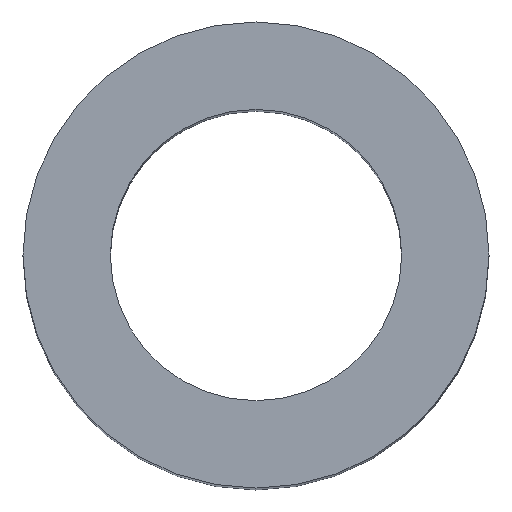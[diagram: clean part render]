
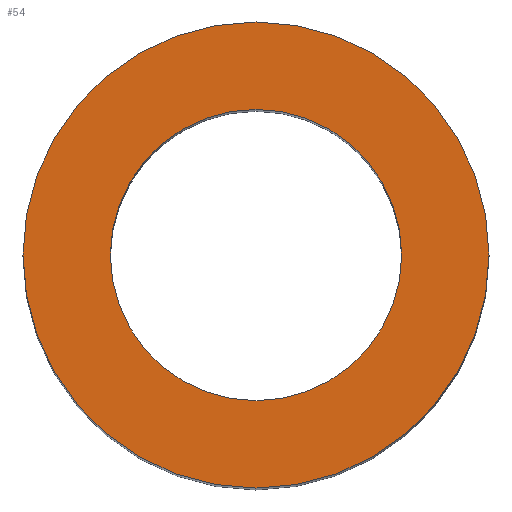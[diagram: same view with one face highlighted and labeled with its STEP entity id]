
A CAD part, top view. The second image highlights one B-rep face of the part: STEP entity #54.
In plain terms, the highlighted planar face has unit normal (0, 0, 1).
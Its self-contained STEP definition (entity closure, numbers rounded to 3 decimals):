
#1 = DIRECTION ( 'NONE',  ( 0., 0., 1. ) ) ;
#4 = CIRCLE ( 'NONE', #205, 8. ) ;
#6 = DIRECTION ( 'NONE',  ( 1., 0., 0. ) ) ;
#12 = DIRECTION ( 'NONE',  ( 0., 0., 1. ) ) ;
#14 = CIRCLE ( 'NONE', #34, 5. ) ;
#16 = FACE_OUTER_BOUND ( 'NONE', #110, .T. ) ;
#30 = ORIENTED_EDGE ( 'NONE', *, *, #38, .F. ) ;
#33 = CARTESIAN_POINT ( 'NONE',  ( 0., 0., 38. ) ) ;
#34 = AXIS2_PLACEMENT_3D ( 'NONE', #137, #12, #51 ) ;
#38 = EDGE_CURVE ( 'NONE', #115, #190, #14, .T. ) ;
#41 = CARTESIAN_POINT ( 'NONE',  ( 0., 0., 38. ) ) ;
#46 = EDGE_LOOP ( 'NONE', ( #118, #30 ) ) ;
#51 = DIRECTION ( 'NONE',  ( 1., 0., 0. ) ) ;
#54 = ADVANCED_FACE ( 'NONE', ( #16, #214 ), #60, .T. ) ;
#58 = DIRECTION ( 'NONE',  ( 1., 0., 0. ) ) ;
#60 = PLANE ( 'NONE',  #201 ) ;
#63 = DIRECTION ( 'NONE',  ( 1., 0., 0. ) ) ;
#67 = DIRECTION ( 'NONE',  ( 0., 0., 1. ) ) ;
#68 = DIRECTION ( 'NONE',  ( 0., 0., 1. ) ) ;
#71 = AXIS2_PLACEMENT_3D ( 'NONE', #33, #67, #6 ) ;
#72 = AXIS2_PLACEMENT_3D ( 'NONE', #41, #1, #63 ) ;
#73 = EDGE_CURVE ( 'NONE', #196, #189, #80, .T. ) ;
#80 = CIRCLE ( 'NONE', #72, 8. ) ;
#90 = CARTESIAN_POINT ( 'NONE',  ( 5., 0., 38. ) ) ;
#110 = EDGE_LOOP ( 'NONE', ( #202, #145 ) ) ;
#115 = VERTEX_POINT ( 'NONE', #90 ) ;
#118 = ORIENTED_EDGE ( 'NONE', *, *, #144, .F. ) ;
#128 = DIRECTION ( 'NONE',  ( 1., 0., 0. ) ) ;
#130 = CARTESIAN_POINT ( 'NONE',  ( 8., 0., 38. ) ) ;
#131 = DIRECTION ( 'NONE',  ( 0., 0., 1. ) ) ;
#132 = CARTESIAN_POINT ( 'NONE',  ( 0., 0., 38. ) ) ;
#137 = CARTESIAN_POINT ( 'NONE',  ( 0., 0., 38. ) ) ;
#142 = CARTESIAN_POINT ( 'NONE',  ( 0., 0., 38. ) ) ;
#144 = EDGE_CURVE ( 'NONE', #190, #115, #167, .T. ) ;
#145 = ORIENTED_EDGE ( 'NONE', *, *, #169, .T. ) ;
#148 = CARTESIAN_POINT ( 'NONE',  ( -5., 0., 38. ) ) ;
#167 = CIRCLE ( 'NONE', #71, 5. ) ;
#169 = EDGE_CURVE ( 'NONE', #189, #196, #4, .T. ) ;
#180 = CARTESIAN_POINT ( 'NONE',  ( -8., 0., 38. ) ) ;
#189 = VERTEX_POINT ( 'NONE', #130 ) ;
#190 = VERTEX_POINT ( 'NONE', #148 ) ;
#196 = VERTEX_POINT ( 'NONE', #180 ) ;
#201 = AXIS2_PLACEMENT_3D ( 'NONE', #142, #68, #58 ) ;
#202 = ORIENTED_EDGE ( 'NONE', *, *, #73, .T. ) ;
#205 = AXIS2_PLACEMENT_3D ( 'NONE', #132, #131, #128 ) ;
#214 = FACE_BOUND ( 'NONE', #46, .T. ) ;
